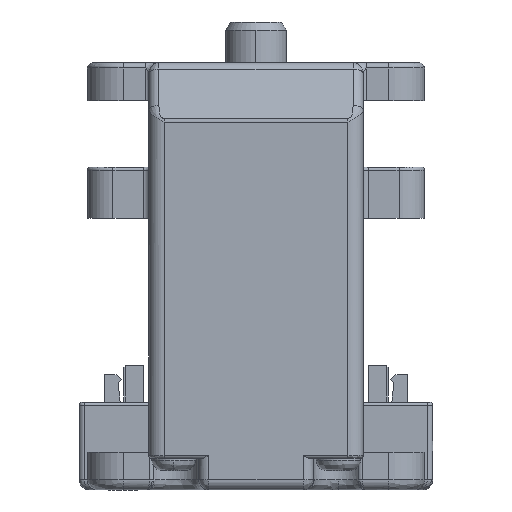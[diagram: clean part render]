
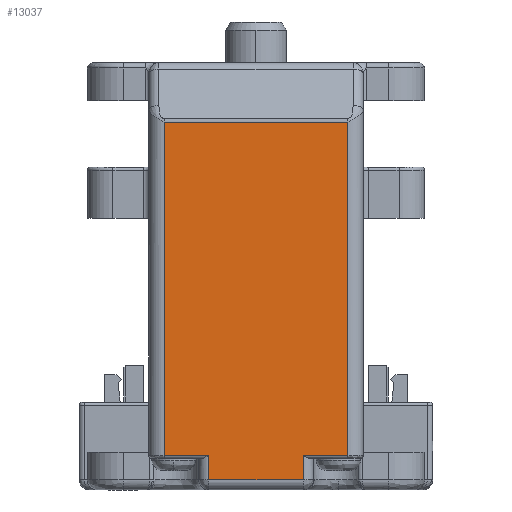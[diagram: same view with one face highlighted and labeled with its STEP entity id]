
A CAD part, left-side view. The second image highlights one B-rep face of the part: STEP entity #13037.
In plain terms, the highlighted planar face has unit normal (-1, 0, 0).
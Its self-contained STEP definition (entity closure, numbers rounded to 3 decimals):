
#4022 = CARTESIAN_POINT ( 'NONE',  ( -30.2, -9., -38.4 ) ) ;
#4156 = CARTESIAN_POINT ( 'NONE',  ( -30.2, 4.6, -40.8 ) ) ;
#4205 = CARTESIAN_POINT ( 'NONE',  ( -30.2, -4.6, -40.8 ) ) ;
#9339 = VERTEX_POINT ( 'NONE', #4022 ) ;
#9380 = VERTEX_POINT ( 'NONE', #4156 ) ;
#9398 = VERTEX_POINT ( 'NONE', #4205 ) ;
#12080 = VERTEX_POINT ( 'NONE', #16988 ) ;
#12082 = EDGE_CURVE ( 'NONE', #12080, #12136, #16990, .T. ) ;
#12090 = VERTEX_POINT ( 'NONE', #17084 ) ;
#12128 = EDGE_CURVE ( 'NONE', #12090, #9339, #17189, .T. ) ;
#12135 = EDGE_CURVE ( 'NONE', #9339, #14004, #17179, .T. ) ;
#12136 = VERTEX_POINT ( 'NONE', #17175 ) ;
#12148 = VERTEX_POINT ( 'NONE', #17215 ) ;
#12150 = EDGE_CURVE ( 'NONE', #12148, #12090, #17214, .T. ) ;
#13037 = ADVANCED_FACE ( 'NONE', ( #20024 ), #20023, .F. ) ;
#13038 = ORIENTED_EDGE ( 'NONE', *, *, #14363, .F. ) ;
#13039 = ORIENTED_EDGE ( 'NONE', *, *, #14352, .F. ) ;
#13040 = ORIENTED_EDGE ( 'NONE', *, *, #12135, .F. ) ;
#13041 = ORIENTED_EDGE ( 'NONE', *, *, #12128, .F. ) ;
#13042 = ORIENTED_EDGE ( 'NONE', *, *, #12150, .F. ) ;
#13043 = ORIENTED_EDGE ( 'NONE', *, *, #13044, .F. ) ;
#13044 = EDGE_CURVE ( 'NONE', #12136, #12148, #20018, .T. ) ;
#13045 = ORIENTED_EDGE ( 'NONE', *, *, #12082, .F. ) ;
#13046 = ORIENTED_EDGE ( 'NONE', *, *, #14332, .F. ) ;
#13059 = EDGE_LOOP ( 'NONE', ( #13038, #13039, #13040, #13041, #13042, #13043, #13045, #13046 ) ) ;
#14004 = VERTEX_POINT ( 'NONE', #22033 ) ;
#14332 = EDGE_CURVE ( 'NONE', #9380, #12080, #22711, .T. ) ;
#14352 = EDGE_CURVE ( 'NONE', #14004, #9398, #22753, .T. ) ;
#14363 = EDGE_CURVE ( 'NONE', #9398, #9380, #22743, .T. ) ;
#16983 = DIRECTION ( 'NONE',  ( 0., 1., 0. ) ) ;
#16984 = VECTOR ( 'NONE', #16983, 1000. ) ;
#16985 = CARTESIAN_POINT ( 'NONE',  ( -30.2, 10.5, -38.4 ) ) ;
#16988 = CARTESIAN_POINT ( 'NONE',  ( -30.2, 4.6, -38.4 ) ) ;
#16990 = LINE ( 'NONE', #16985, #16984 ) ;
#17084 = CARTESIAN_POINT ( 'NONE',  ( -30.2, -9., -5.793 ) ) ;
#17175 = CARTESIAN_POINT ( 'NONE',  ( -30.2, 9., -38.4 ) ) ;
#17176 = DIRECTION ( 'NONE',  ( 0., 1., 0. ) ) ;
#17177 = VECTOR ( 'NONE', #17176, 1000. ) ;
#17178 = CARTESIAN_POINT ( 'NONE',  ( -30.2, 10.5, -38.4 ) ) ;
#17179 = LINE ( 'NONE', #17178, #17177 ) ;
#17186 = DIRECTION ( 'NONE',  ( 0., 0., -1. ) ) ;
#17187 = VECTOR ( 'NONE', #17186, 1000. ) ;
#17188 = CARTESIAN_POINT ( 'NONE',  ( -30.2, -9., -36.8 ) ) ;
#17189 = LINE ( 'NONE', #17188, #17187 ) ;
#17211 = DIRECTION ( 'NONE',  ( 0., -1., 0. ) ) ;
#17212 = VECTOR ( 'NONE', #17211, 1000. ) ;
#17213 = CARTESIAN_POINT ( 'NONE',  ( -30.2, 10.5, -5.793 ) ) ;
#17214 = LINE ( 'NONE', #17213, #17212 ) ;
#17215 = CARTESIAN_POINT ( 'NONE',  ( -30.2, 9., -5.793 ) ) ;
#20015 = DIRECTION ( 'NONE',  ( 0., 0., 1. ) ) ;
#20016 = VECTOR ( 'NONE', #20015, 1000. ) ;
#20017 = CARTESIAN_POINT ( 'NONE',  ( -30.2, 9., -36.9 ) ) ;
#20018 = LINE ( 'NONE', #20017, #20016 ) ;
#20019 = DIRECTION ( 'NONE',  ( 0., 0., -1. ) ) ;
#20020 = DIRECTION ( 'NONE',  ( 1., 0., 0. ) ) ;
#20021 = AXIS2_PLACEMENT_3D ( 'NONE', #20022, #20020, #20019 ) ;
#20022 = CARTESIAN_POINT ( 'NONE',  ( -30.2, 10.5, -36.8 ) ) ;
#20023 = PLANE ( 'NONE',  #20021 ) ;
#20024 = FACE_OUTER_BOUND ( 'NONE', #13059, .T. ) ;
#22033 = CARTESIAN_POINT ( 'NONE',  ( -30.2, -4.6, -38.4 ) ) ;
#22708 = DIRECTION ( 'NONE',  ( 0., 0., 1. ) ) ;
#22709 = VECTOR ( 'NONE', #22708, 1000. ) ;
#22710 = CARTESIAN_POINT ( 'NONE',  ( -30.2, 4.6, -36.8 ) ) ;
#22711 = LINE ( 'NONE', #22710, #22709 ) ;
#22740 = DIRECTION ( 'NONE',  ( 0., 1., 0. ) ) ;
#22741 = VECTOR ( 'NONE', #22740, 1000. ) ;
#22742 = CARTESIAN_POINT ( 'NONE',  ( -30.2, 10.5, -40.8 ) ) ;
#22743 = LINE ( 'NONE', #22742, #22741 ) ;
#22750 = DIRECTION ( 'NONE',  ( 0., 0., -1. ) ) ;
#22751 = VECTOR ( 'NONE', #22750, 1000. ) ;
#22752 = CARTESIAN_POINT ( 'NONE',  ( -30.2, -4.6, -36.8 ) ) ;
#22753 = LINE ( 'NONE', #22752, #22751 ) ;
